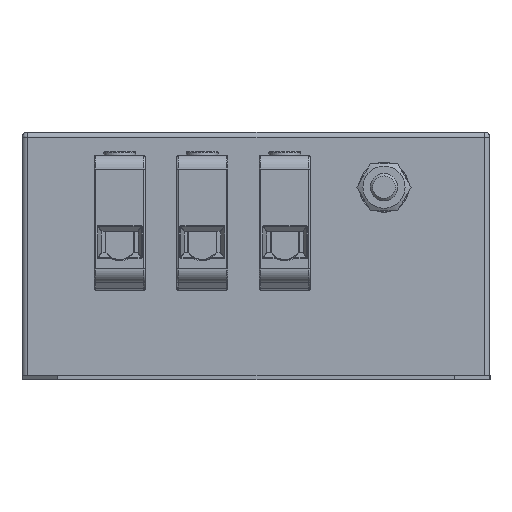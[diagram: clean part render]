
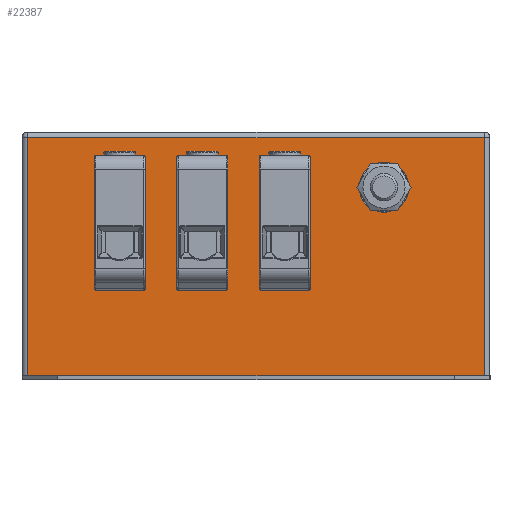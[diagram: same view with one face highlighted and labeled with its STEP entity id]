
A CAD part, left-side view. The second image highlights one B-rep face of the part: STEP entity #22387.
In plain terms, the highlighted planar face has unit normal (-1, 0, 0).
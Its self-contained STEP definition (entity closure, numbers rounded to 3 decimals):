
#2264=CARTESIAN_POINT('',(-175.0,-19.25,-56.922));
#2265=VERTEX_POINT('',#2264);
#2275=CARTESIAN_POINT('',(-175.0,-19.25,-8.922));
#2276=VERTEX_POINT('',#2275);
#2277=CARTESIAN_POINT('',(-175.0,-19.25,-8.922));
#2278=DIRECTION('',(0.0,0.0,-1.0));
#2279=VECTOR('',#2278,48.);
#2280=LINE('',#2277,#2279);
#2281=EDGE_CURVE('',#2276,#2265,#2280,.T.);
#2846=CARTESIAN_POINT('',(-175.0,-1.75,-8.922));
#2847=VERTEX_POINT('',#2846);
#2848=CARTESIAN_POINT('',(-175.,-1.75,-8.922));
#2849=DIRECTION('',(0.0,-1.0,0.0));
#2850=VECTOR('',#2849,17.5);
#2851=LINE('',#2848,#2850);
#2852=EDGE_CURVE('',#2847,#2276,#2851,.T.);
#3408=CARTESIAN_POINT('',(-175.0,-1.75,-56.922));
#3409=VERTEX_POINT('',#3408);
#3410=CARTESIAN_POINT('',(-175.0,-1.75,-56.922));
#3411=DIRECTION('',(0.0,0.0,1.0));
#3412=VECTOR('',#3411,48.);
#3413=LINE('',#3410,#3412);
#3414=EDGE_CURVE('',#3409,#2847,#3413,.T.);
#3800=CARTESIAN_POINT('',(-175.,-1.75,-56.922));
#3801=DIRECTION('',(0.0,-1.0,0.0));
#3802=VECTOR('',#3801,17.5);
#3803=LINE('',#3800,#3802);
#3804=EDGE_CURVE('',#3409,#2265,#3803,.T.);
#6130=CARTESIAN_POINT('',(-175.0,10.75,-56.922));
#6131=VERTEX_POINT('',#6130);
#6141=CARTESIAN_POINT('',(-175.0,10.75,-8.922));
#6142=VERTEX_POINT('',#6141);
#6143=CARTESIAN_POINT('',(-175.0,10.75,-8.922));
#6144=DIRECTION('',(0.0,0.0,-1.0));
#6145=VECTOR('',#6144,48.);
#6146=LINE('',#6143,#6145);
#6147=EDGE_CURVE('',#6142,#6131,#6146,.T.);
#6712=CARTESIAN_POINT('',(-175.0,28.25,-8.922));
#6713=VERTEX_POINT('',#6712);
#6714=CARTESIAN_POINT('',(-175.0,28.25,-8.922));
#6715=DIRECTION('',(0.0,-1.0,0.0));
#6716=VECTOR('',#6715,17.5);
#6717=LINE('',#6714,#6716);
#6718=EDGE_CURVE('',#6713,#6142,#6717,.T.);
#7274=CARTESIAN_POINT('',(-175.0,28.25,-56.922));
#7275=VERTEX_POINT('',#7274);
#7276=CARTESIAN_POINT('',(-175.0,28.25,-56.922));
#7277=DIRECTION('',(0.0,0.0,1.0));
#7278=VECTOR('',#7277,48.);
#7279=LINE('',#7276,#7278);
#7280=EDGE_CURVE('',#7275,#6713,#7279,.T.);
#7666=CARTESIAN_POINT('',(-175.0,28.25,-56.922));
#7667=DIRECTION('',(0.0,-1.0,0.0));
#7668=VECTOR('',#7667,17.5);
#7669=LINE('',#7666,#7668);
#7670=EDGE_CURVE('',#7275,#6131,#7669,.T.);
#9997=CARTESIAN_POINT('',(-175.0,40.75,-56.922));
#9998=VERTEX_POINT('',#9997);
#10008=CARTESIAN_POINT('',(-175.0,40.75,-8.922));
#10009=VERTEX_POINT('',#10008);
#10010=CARTESIAN_POINT('',(-175.0,40.75,-8.922));
#10011=DIRECTION('',(0.0,0.0,-1.0));
#10012=VECTOR('',#10011,48.);
#10013=LINE('',#10010,#10012);
#10014=EDGE_CURVE('',#10009,#9998,#10013,.T.);
#10579=CARTESIAN_POINT('',(-175.0,58.25,-8.922));
#10580=VERTEX_POINT('',#10579);
#10581=CARTESIAN_POINT('',(-175.0,58.25,-8.922));
#10582=DIRECTION('',(0.0,-1.0,0.0));
#10583=VECTOR('',#10582,17.5);
#10584=LINE('',#10581,#10583);
#10585=EDGE_CURVE('',#10580,#10009,#10584,.T.);
#11141=CARTESIAN_POINT('',(-175.0,58.25,-56.922));
#11142=VERTEX_POINT('',#11141);
#11143=CARTESIAN_POINT('',(-175.0,58.25,-56.922));
#11144=DIRECTION('',(0.0,0.0,1.0));
#11145=VECTOR('',#11144,48.);
#11146=LINE('',#11143,#11145);
#11147=EDGE_CURVE('',#11142,#10580,#11146,.T.);
#11533=CARTESIAN_POINT('',(-175.0,58.25,-56.922));
#11534=DIRECTION('',(0.0,-1.0,0.0));
#11535=VECTOR('',#11534,17.5);
#11536=LINE('',#11533,#11535);
#11537=EDGE_CURVE('',#11142,#9998,#11536,.T.);
#11771=CARTESIAN_POINT('',(-175.0,-46.5,-28.25));
#11772=VERTEX_POINT('',#11771);
#11773=CARTESIAN_POINT('',(-175.0,-46.5,-20.0));
#11774=DIRECTION('',(1.0,0.0,0.0));
#11775=DIRECTION('',(0.0,0.0,-1.0));
#11776=AXIS2_PLACEMENT_3D('',#11773,#11774,#11775);
#11777=CIRCLE('',#11776,8.25);
#11778=EDGE_CURVE('',#11772,#11772,#11777,.T.);
#22263=CARTESIAN_POINT('',(-175.0,83.0,-88.5));
#22264=VERTEX_POINT('',#22263);
#22272=CARTESIAN_POINT('',(-175.0,83.0,-2.0));
#22273=VERTEX_POINT('',#22272);
#22274=CARTESIAN_POINT('',(-175.0,83.0,-88.5));
#22275=DIRECTION('',(0.0,0.0,1.0));
#22276=VECTOR('',#22275,86.5);
#22277=LINE('',#22274,#22276);
#22278=EDGE_CURVE('',#22264,#22273,#22277,.T.);
#22319=CARTESIAN_POINT('',(-175.,-83.0,-2.0));
#22320=VERTEX_POINT('',#22319);
#22321=CARTESIAN_POINT('',(-175.0,83.,-2.0));
#22322=DIRECTION('',(0.0,-1.0,0.0));
#22323=VECTOR('',#22322,166.0);
#22324=LINE('',#22321,#22323);
#22325=EDGE_CURVE('',#22273,#22320,#22324,.T.);
#22343=CARTESIAN_POINT('',(-175.0,85.0,0.0));
#22344=DIRECTION('',(-1.0,0.0,0.0));
#22345=DIRECTION('',(0.0,0.0,1.0));
#22346=AXIS2_PLACEMENT_3D('',#22343,#22344,#22345);
#22347=PLANE('',#22346);
#22348=ORIENTED_EDGE('',*,*,#22278,.F.);
#22349=CARTESIAN_POINT('',(-175.,-83.0,-88.5));
#22350=VERTEX_POINT('',#22349);
#22351=CARTESIAN_POINT('',(-175.0,83.0,-88.5));
#22352=DIRECTION('',(0.0,-1.0,0.0));
#22353=VECTOR('',#22352,166.0);
#22354=LINE('',#22351,#22353);
#22355=EDGE_CURVE('',#22264,#22350,#22354,.T.);
#22356=ORIENTED_EDGE('',*,*,#22355,.T.);
#22357=CARTESIAN_POINT('',(-175.,-83.0,-2.0));
#22358=DIRECTION('',(0.0,0.0,-1.0));
#22359=VECTOR('',#22358,86.5);
#22360=LINE('',#22357,#22359);
#22361=EDGE_CURVE('',#22320,#22350,#22360,.T.);
#22362=ORIENTED_EDGE('',*,*,#22361,.F.);
#22363=ORIENTED_EDGE('',*,*,#22325,.F.);
#22364=EDGE_LOOP('',(#22348,#22356,#22362,#22363));
#22365=FACE_OUTER_BOUND('',#22364,.T.);
#22366=ORIENTED_EDGE('',*,*,#2281,.T.);
#22367=ORIENTED_EDGE('',*,*,#3804,.F.);
#22368=ORIENTED_EDGE('',*,*,#3414,.T.);
#22369=ORIENTED_EDGE('',*,*,#2852,.T.);
#22370=EDGE_LOOP('',(#22366,#22367,#22368,#22369));
#22371=FACE_BOUND('',#22370,.T.);
#22372=ORIENTED_EDGE('',*,*,#6147,.T.);
#22373=ORIENTED_EDGE('',*,*,#7670,.F.);
#22374=ORIENTED_EDGE('',*,*,#7280,.T.);
#22375=ORIENTED_EDGE('',*,*,#6718,.T.);
#22376=EDGE_LOOP('',(#22372,#22373,#22374,#22375));
#22377=FACE_BOUND('',#22376,.T.);
#22378=ORIENTED_EDGE('',*,*,#10014,.T.);
#22379=ORIENTED_EDGE('',*,*,#11537,.F.);
#22380=ORIENTED_EDGE('',*,*,#11147,.T.);
#22381=ORIENTED_EDGE('',*,*,#10585,.T.);
#22382=EDGE_LOOP('',(#22378,#22379,#22380,#22381));
#22383=FACE_BOUND('',#22382,.T.);
#22384=ORIENTED_EDGE('',*,*,#11778,.T.);
#22385=EDGE_LOOP('',(#22384));
#22386=FACE_BOUND('',#22385,.T.);
#22387=ADVANCED_FACE('',(#22365,#22371,#22377,#22383,#22386),#22347,.T.);
